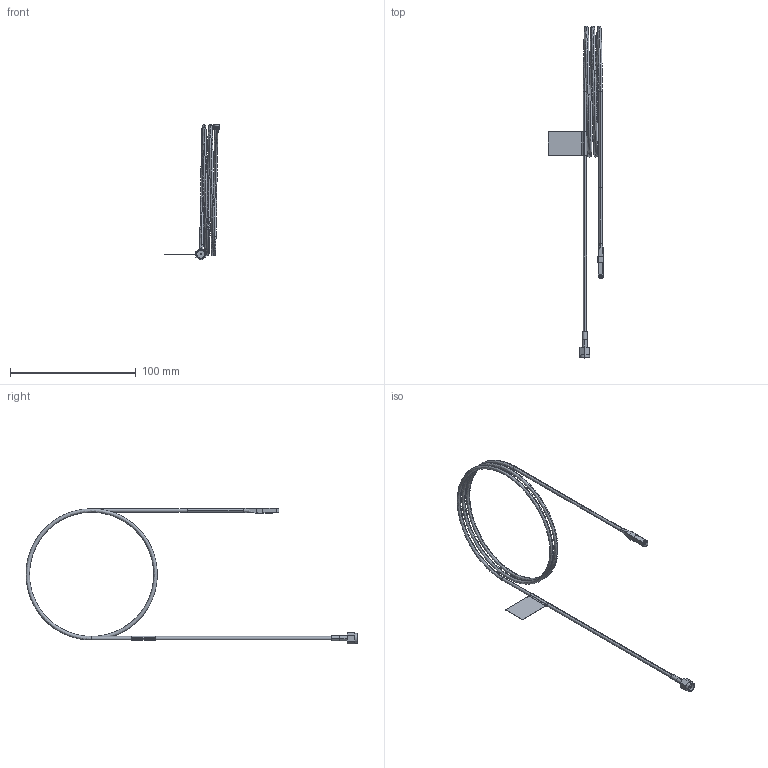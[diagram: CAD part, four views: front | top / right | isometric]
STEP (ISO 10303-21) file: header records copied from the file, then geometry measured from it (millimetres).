
FILE_DESCRIPTION((''),'2;1');
FILE_NAME('CT6_ASM','2022-03-14T13:06:59',('mthomps2'),(''),'CREO PARAMETRIC BY PTC INC, 2019080','CREO PARAMETRIC BY PTC INC, 2019080','');
FILE_SCHEMA(('CONFIG_CONTROL_DESIGN','SHAPE_APPEARANCE_LAYERS_GROUPS'));
Length unit declared in the file: inch
Products named in the file (15): 389264800; 120200700; 603_PACKAGE; 174417800_1; 131669300; 174417800_2; 358083400; 166060600; 174400900_ASM; 380112800; 358083600; RAYCHEM_RNF3000_62_SHRUNK; 334976000; RAYCHEM_RNF3000_62; CT6_ASM
Assembly tree (15 placements, depth 3):
  CT6_ASM
    389264800
    120200700
    603_PACKAGE  x2
    174400900_ASM
      174417800_1
      131669300
      174417800_2
      358083400
      166060600
    380112800
    358083600
    RAYCHEM_RNF3000_62_SHRUNK
    334976000
    RAYCHEM_RNF3000_62
Bounding box: 44.08 x 263.91 x 108.12 mm (x, y, z)
Volume: 8097.3 mm3; surface area: 15024.7 mm2
Topology: 14 solids, 14 shells, 197 faces, 427 edges, 268 vertices
Faces by surface type: plane 113, cylinder 70, bspline 10, cone 4
Entity records: 7930 total; most frequent: CARTESIAN_POINT 2318, DIRECTION 969, ORIENTED_EDGE 830, EDGE_CURVE 415, AXIS2_PLACEMENT_3D 366, VERTEX_POINT 260, VECTOR 237, LINE 237
